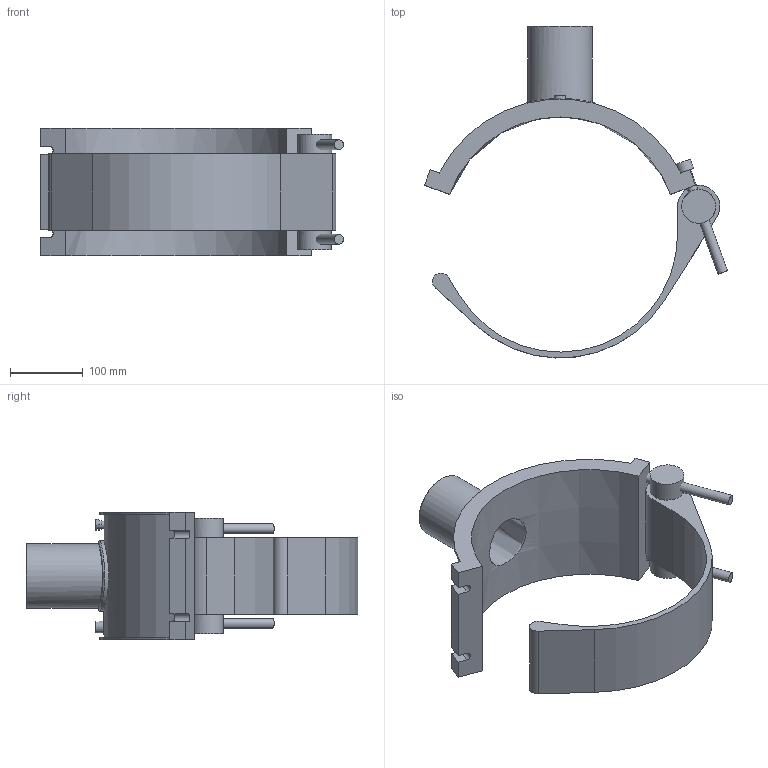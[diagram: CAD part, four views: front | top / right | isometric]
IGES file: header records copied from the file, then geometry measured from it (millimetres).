
Global section: file name: 5958BB03120030.ipt; native system: Autodesk Inventor 2019; preprocessor: unknown; author: KIM; date: 20210830.101309; units: inch
Bounding box: 416.58 x 456.57 x 176.02 mm (x, y, z)
Volume: 2745129.5 mm3; surface area: 410233.4 mm2
Topology: 5 solids, 5 shells, 65 faces, 135 edges, 91 vertices
Faces by surface type: plane 37, cylinder 17, revolution 7, cone 3, bspline 1
Full cylindrical faces by diameter (mm): 4 x2, 13.583 x2, 22.638 x2, 46.57 x2, 88.7 x1, 97.57 x1
